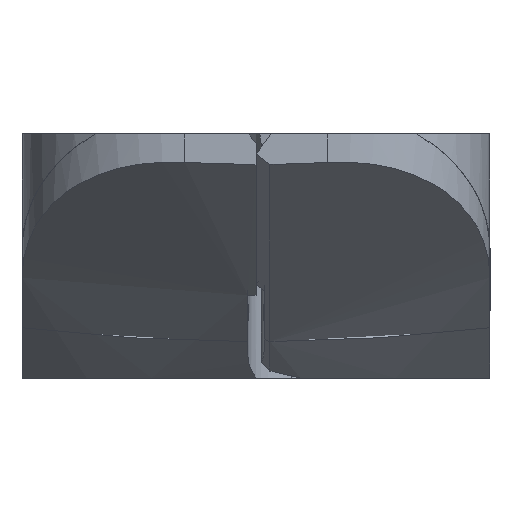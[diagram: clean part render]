
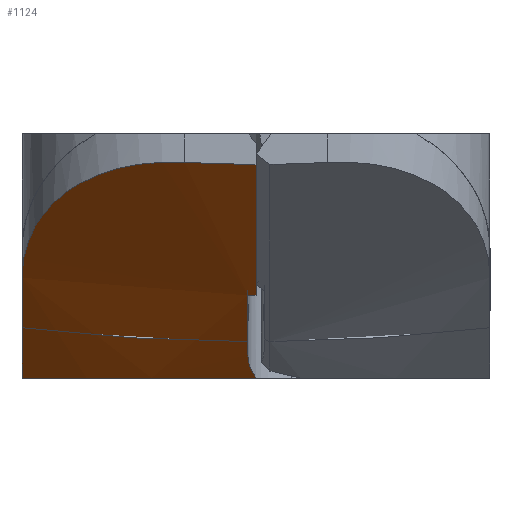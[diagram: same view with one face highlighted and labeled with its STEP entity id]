
A CAD part, left-side view. The second image highlights one B-rep face of the part: STEP entity #1124.
In plain terms, the highlighted cylindrical face has radius 75 mm (diameter 150 mm), a partial arc.
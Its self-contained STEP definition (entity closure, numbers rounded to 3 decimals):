
#1 = EDGE_CURVE ( 'NONE', #4741, #846, #6220, .T. ) ;
#21 = DIRECTION ( 'NONE',  ( -0.766, 0., 0.643 ) ) ;
#52 = CARTESIAN_POINT ( 'NONE',  ( -25.122, 7.155, -1.802 ) ) ;
#71 = CARTESIAN_POINT ( 'NONE',  ( -14.852, 0.4, -10.864 ) ) ;
#78 = CARTESIAN_POINT ( 'NONE',  ( -19.815, 11.305, -5.582 ) ) ;
#142 = ORIENTED_EDGE ( 'NONE', *, *, #1, .T. ) ;
#186 = EDGE_CURVE ( 'NONE', #1983, #7145, #1888, .T. ) ;
#213 = EDGE_CURVE ( 'NONE', #2588, #1205, #2800, .T. ) ;
#436 = CARTESIAN_POINT ( 'NONE',  ( -19.441, 0., -7.015 ) ) ;
#491 = CARTESIAN_POINT ( 'NONE',  ( -15.066, 11.5, -9.528 ) ) ;
#583 = CARTESIAN_POINT ( 'NONE',  ( -13.711, 0.138, -11.823 ) ) ;
#616 = CARTESIAN_POINT ( 'NONE',  ( -24.695, 7.888, -2.064 ) ) ;
#635 = CARTESIAN_POINT ( 'NONE',  ( -18.454, 11.5, -6.686 ) ) ;
#704 = CARTESIAN_POINT ( 'NONE',  ( -13.5, 0.003, -12. ) ) ;
#740 = VERTEX_POINT ( 'NONE', #1609 ) ;
#753 = CARTESIAN_POINT ( 'NONE',  ( -26., 0., -1.511 ) ) ;
#846 = VERTEX_POINT ( 'NONE', #3389 ) ;
#889 = EDGE_CURVE ( 'NONE', #1041, #4741, #3909, .T. ) ;
#959 = FACE_OUTER_BOUND ( 'NONE', #3182, .T. ) ;
#1041 = VERTEX_POINT ( 'NONE', #6945 ) ;
#1124 = ADVANCED_FACE ( 'NONE', ( #959 ), #1567, .T. ) ;
#1152 = CARTESIAN_POINT ( 'NONE',  ( -26., 3.5, -1.405 ) ) ;
#1181 = CARTESIAN_POINT ( 'NONE',  ( -24.206, 8.556, -2.378 ) ) ;
#1205 = VERTEX_POINT ( 'NONE', #5503 ) ;
#1233 = B_SPLINE_CURVE_WITH_KNOTS ( 'NONE', 3,
 ( #5030, #5578, #2268, #6148, #2821, #6699, #3396, #52, #3941, #616, #4500, #1181, #5050, #1747, #5601, #2288, #6170, #2847, #6722, #3416, #78, #3962, #635, #4523 ),
 .UNSPECIFIED., .F., .F.,
 ( 4, 2, 2, 2, 2, 2, 2, 2, 2, 2, 2, 4 ),
 ( 0., 0.002, 0.003, 0.004, 0.004, 0.005, 0.006, 0.007, 0.009, 0.011, 0.012, 0.014 ),
 .UNSPECIFIED. ) ;
#1275 = VERTEX_POINT ( 'NONE', #4393 ) ;
#1567 = CYLINDRICAL_SURFACE ( 'NONE', #2503, 75. ) ;
#1609 = CARTESIAN_POINT ( 'NONE',  ( -12.12, 11.5, -12. ) ) ;
#1704 = ORIENTED_EDGE ( 'NONE', *, *, #889, .T. ) ;
#1747 = CARTESIAN_POINT ( 'NONE',  ( -23.665, 9.155, -2.738 ) ) ;
#1815 = CARTESIAN_POINT ( 'NONE',  ( -18.871, 11.5, -6.336 ) ) ;
#1888 = LINE ( 'NONE', #1815, #3376 ) ;
#1983 = VERTEX_POINT ( 'NONE', #3048 ) ;
#2059 = CARTESIAN_POINT ( 'NONE',  ( -14.852, 0.4, -10.864 ) ) ;
#2079 = CARTESIAN_POINT ( 'NONE',  ( -13.039, 7.694, -12. ) ) ;
#2239 = LINE ( 'NONE', #6754, #6659 ) ;
#2268 = CARTESIAN_POINT ( 'NONE',  ( -25.935, 4.678, -1.378 ) ) ;
#2272 = VECTOR ( 'NONE', #3758, 1000. ) ;
#2273 = EDGE_CURVE ( 'NONE', #1041, #740, #4348, .T. ) ;
#2288 = CARTESIAN_POINT ( 'NONE',  ( -22.881, 9.86, -3.28 ) ) ;
#2433 = CARTESIAN_POINT ( 'NONE',  ( -26., 3.5, -1.405 ) ) ;
#2480 = B_SPLINE_CURVE_WITH_KNOTS ( 'NONE', 3,
 ( #753, #5119, #5737, #2433 ),
 .UNSPECIFIED., .F., .F.,
 ( 4, 4 ),
 ( 0., 1. ),
 .UNSPECIFIED. ) ;
#2503 = AXIS2_PLACEMENT_3D ( 'NONE', #3982, #4354, #5468 ) ;
#2559 = EDGE_CURVE ( 'NONE', #2594, #1983, #1233, .T. ) ;
#2588 = VERTEX_POINT ( 'NONE', #4087 ) ;
#2594 = VERTEX_POINT ( 'NONE', #1152 ) ;
#2792 = CARTESIAN_POINT ( 'NONE',  ( -19.44, 0.4, -7.014 ) ) ;
#2800 =( BOUNDED_CURVE ( )  B_SPLINE_CURVE ( 3, ( #3440, #5073, #6213, #3603 ),
 .UNSPECIFIED., .F., .T. ) 
 B_SPLINE_CURVE_WITH_KNOTS ( ( 4, 4 ),
 ( 0., 0.005 ),
 .UNSPECIFIED. ) 
 CURVE ( )  GEOMETRIC_REPRESENTATION_ITEM ( )  RATIONAL_B_SPLINE_CURVE ( ( 1., 1., 1., 1. ) ) 
 REPRESENTATION_ITEM ( '' )  );
#2821 = CARTESIAN_POINT ( 'NONE',  ( -25.661, 5.822, -1.501 ) ) ;
#2847 = CARTESIAN_POINT ( 'NONE',  ( -21.607, 10.658, -4.204 ) ) ;
#2932 = LINE ( 'NONE', #2792, #4223 ) ;
#3048 = CARTESIAN_POINT ( 'NONE',  ( -18., 11.5, -7.066 ) ) ;
#3182 = EDGE_LOOP ( 'NONE', ( #1704, #142, #3851, #7173, #5276, #5747, #6580, #4327, #3597, #6236 ) ) ;
#3296 = CARTESIAN_POINT ( 'NONE',  ( -13.5, 3.854, -12. ) ) ;
#3376 = VECTOR ( 'NONE', #5630, 1000. ) ;
#3389 = CARTESIAN_POINT ( 'NONE',  ( -15.636, 0.4, -10.206 ) ) ;
#3396 = CARTESIAN_POINT ( 'NONE',  ( -25.364, 6.639, -1.661 ) ) ;
#3416 = CARTESIAN_POINT ( 'NONE',  ( -20.265, 11.187, -5.228 ) ) ;
#3440 = CARTESIAN_POINT ( 'NONE',  ( -18.34, 0., -7.939 ) ) ;
#3597 = ORIENTED_EDGE ( 'NONE', *, *, #7005, .F. ) ;
#3603 = CARTESIAN_POINT ( 'NONE',  ( -18.34, 0.4, -7.938 ) ) ;
#3758 = DIRECTION ( 'NONE',  ( -0.766, 0., 0.643 ) ) ;
#3851 = ORIENTED_EDGE ( 'NONE', *, *, #5934, .T. ) ;
#3909 = B_SPLINE_CURVE_WITH_KNOTS ( 'NONE', 3,
 ( #704, #583, #6691, #6788, #6714, #71 ),
 .UNSPECIFIED., .F., .F.,
 ( 4, 2, 4 ),
 ( 0., 0.001, 0.002 ),
 .UNSPECIFIED. ) ;
#3941 = CARTESIAN_POINT ( 'NONE',  ( -24.988, 7.405, -1.883 ) ) ;
#3962 = CARTESIAN_POINT ( 'NONE',  ( -18.91, 11.461, -6.31 ) ) ;
#3982 = CARTESIAN_POINT ( 'NONE',  ( 21.987, 0., 56.129 ) ) ;
#4087 = CARTESIAN_POINT ( 'NONE',  ( -18.34, 0., -7.939 ) ) ;
#4223 = VECTOR ( 'NONE', #21, 1000. ) ;
#4327 = ORIENTED_EDGE ( 'NONE', *, *, #186, .T. ) ;
#4348 =( BOUNDED_CURVE ( )  B_SPLINE_CURVE ( 3, ( #6645, #3296, #2079, #5945 ),
 .UNSPECIFIED., .F., .F. ) 
 B_SPLINE_CURVE_WITH_KNOTS ( ( 4, 4 ),
 ( 3.142, 3.296 ),
 .UNSPECIFIED. ) 
 CURVE ( )  GEOMETRIC_REPRESENTATION_ITEM ( )  RATIONAL_B_SPLINE_CURVE ( ( 1., 0.998, 0.998, 1. ) ) 
 REPRESENTATION_ITEM ( '' )  );
#4354 = DIRECTION ( 'NONE',  ( 0.766, 0., -0.643 ) ) ;
#4393 = CARTESIAN_POINT ( 'NONE',  ( -26., 0., -1.511 ) ) ;
#4500 = CARTESIAN_POINT ( 'NONE',  ( -24.537, 8.119, -2.164 ) ) ;
#4523 = CARTESIAN_POINT ( 'NONE',  ( -18., 11.5, -7.066 ) ) ;
#4551 = EDGE_CURVE ( 'NONE', #1275, #2594, #2480, .T. ) ;
#4741 = VERTEX_POINT ( 'NONE', #2059 ) ;
#4747 = VECTOR ( 'NONE', #6652, 1000. ) ;
#5030 = CARTESIAN_POINT ( 'NONE',  ( -26., 3.5, -1.405 ) ) ;
#5050 = CARTESIAN_POINT ( 'NONE',  ( -24.031, 8.763, -2.493 ) ) ;
#5073 = CARTESIAN_POINT ( 'NONE',  ( -18.34, 0.133, -7.939 ) ) ;
#5074 = DIRECTION ( 'NONE',  ( -0.766, 0., 0.643 ) ) ;
#5119 = CARTESIAN_POINT ( 'NONE',  ( -26., 1.167, -1.511 ) ) ;
#5276 = ORIENTED_EDGE ( 'NONE', *, *, #5784, .T. ) ;
#5468 = DIRECTION ( 'NONE',  ( -0.643, 0., -0.766 ) ) ;
#5503 = CARTESIAN_POINT ( 'NONE',  ( -18.34, 0.4, -7.938 ) ) ;
#5578 = CARTESIAN_POINT ( 'NONE',  ( -26., 4.094, -1.368 ) ) ;
#5601 = CARTESIAN_POINT ( 'NONE',  ( -23.474, 9.34, -2.869 ) ) ;
#5626 = CARTESIAN_POINT ( 'NONE',  ( -19.44, 0.4, -7.014 ) ) ;
#5630 = DIRECTION ( 'NONE',  ( 0.766, 0., -0.643 ) ) ;
#5737 = CARTESIAN_POINT ( 'NONE',  ( -26., 2.334, -1.476 ) ) ;
#5747 = ORIENTED_EDGE ( 'NONE', *, *, #4551, .T. ) ;
#5784 = EDGE_CURVE ( 'NONE', #2588, #1275, #6696, .T. ) ;
#5934 = EDGE_CURVE ( 'NONE', #846, #1205, #2932, .T. ) ;
#5945 = CARTESIAN_POINT ( 'NONE',  ( -12.12, 11.5, -12. ) ) ;
#6148 = CARTESIAN_POINT ( 'NONE',  ( -25.742, 5.536, -1.461 ) ) ;
#6170 = CARTESIAN_POINT ( 'NONE',  ( -22.467, 10.155, -3.575 ) ) ;
#6213 = CARTESIAN_POINT ( 'NONE',  ( -18.34, 0.267, -7.939 ) ) ;
#6220 = LINE ( 'NONE', #5626, #4747 ) ;
#6236 = ORIENTED_EDGE ( 'NONE', *, *, #2273, .F. ) ;
#6580 = ORIENTED_EDGE ( 'NONE', *, *, #2559, .T. ) ;
#6645 = CARTESIAN_POINT ( 'NONE',  ( -13.5, 0.003, -12. ) ) ;
#6652 = DIRECTION ( 'NONE',  ( -0.766, 0., 0.643 ) ) ;
#6659 = VECTOR ( 'NONE', #5074, 1000. ) ;
#6691 = CARTESIAN_POINT ( 'NONE',  ( -13.93, 0.236, -11.639 ) ) ;
#6696 = LINE ( 'NONE', #436, #2272 ) ;
#6699 = CARTESIAN_POINT ( 'NONE',  ( -25.472, 6.373, -1.601 ) ) ;
#6714 = CARTESIAN_POINT ( 'NONE',  ( -14.618, 0.4, -11.061 ) ) ;
#6722 = CARTESIAN_POINT ( 'NONE',  ( -21.159, 10.865, -4.54 ) ) ;
#6754 = CARTESIAN_POINT ( 'NONE',  ( -12.12, 11.5, -12. ) ) ;
#6788 = CARTESIAN_POINT ( 'NONE',  ( -14.383, 0.367, -11.258 ) ) ;
#6945 = CARTESIAN_POINT ( 'NONE',  ( -13.5, 0.003, -12. ) ) ;
#7005 = EDGE_CURVE ( 'NONE', #740, #7145, #2239, .T. ) ;
#7145 = VERTEX_POINT ( 'NONE', #491 ) ;
#7173 = ORIENTED_EDGE ( 'NONE', *, *, #213, .F. ) ;
